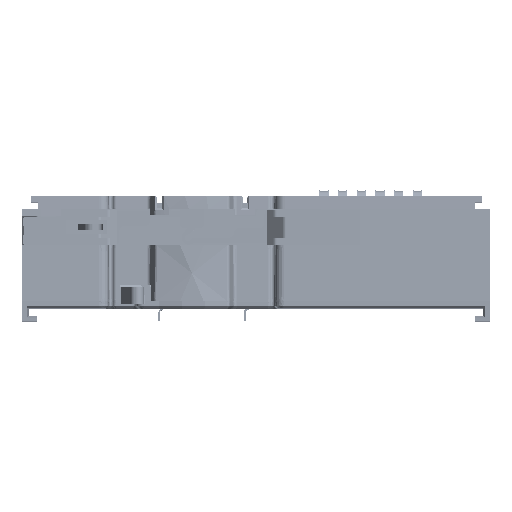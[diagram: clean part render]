
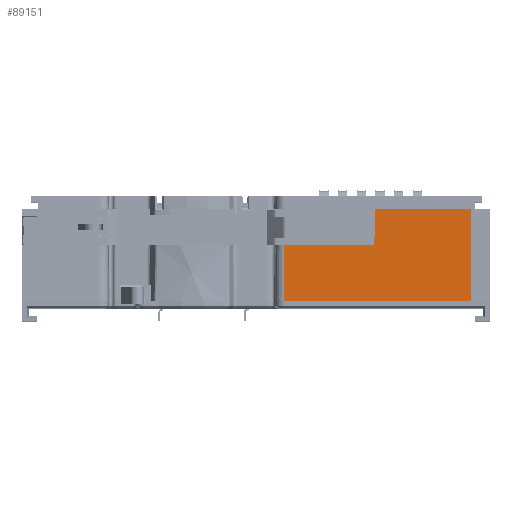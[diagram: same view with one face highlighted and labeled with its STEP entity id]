
A CAD part, top view. The second image highlights one B-rep face of the part: STEP entity #89151.
In plain terms, the highlighted planar face has unit normal (0, 0.009, 1).
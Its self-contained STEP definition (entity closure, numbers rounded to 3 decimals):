
#67140=DIRECTION('',(1.,0.,0.));
#67141=VECTOR('',#67140,20.533);
#67142=CARTESIAN_POINT('',(25.367,9.2,49.128));
#67143=LINE('',#67142,#67141);
#67189=DIRECTION('',(1.,0.,0.));
#67190=VECTOR('',#67189,19.23);
#67191=CARTESIAN_POINT('',(6.07,1.5,49.195));
#67192=LINE('',#67191,#67190);
#73579=DIRECTION('',(-1.,0.,0.));
#73580=VECTOR('',#73579,39.83);
#73581=CARTESIAN_POINT('',(45.9,-10.5,49.3));
#73582=LINE('',#73581,#73580);
#73813=DIRECTION('',(0.,-1.,0.009));
#73814=VECTOR('',#73813,12.);
#73815=CARTESIAN_POINT('',(6.07,1.5,49.195));
#73816=LINE('',#73815,#73814);
#73820=DIRECTION('',(0.,1.,-0.009));
#73821=VECTOR('',#73820,19.701);
#73822=CARTESIAN_POINT('',(45.9,-10.5,49.3));
#73823=LINE('',#73822,#73821);
#73834=DIRECTION('',(-0.009,-1.,0.009));
#73835=VECTOR('',#73834,7.701);
#73836=CARTESIAN_POINT('',(25.367,9.2,49.128));
#73837=LINE('',#73836,#73835);
#80608=CARTESIAN_POINT('',(45.9,-10.5,49.3));
#80609=CARTESIAN_POINT('',(45.9,9.2,49.128));
#80610=VERTEX_POINT('',#80608);
#80611=VERTEX_POINT('',#80609);
#80618=CARTESIAN_POINT('',(6.07,-10.5,49.3));
#80620=VERTEX_POINT('',#80618);
#80660=CARTESIAN_POINT('',(6.07,1.5,49.195));
#80661=VERTEX_POINT('',#80660);
#80800=CARTESIAN_POINT('',(25.367,9.2,49.128));
#80801=VERTEX_POINT('',#80800);
#80802=CARTESIAN_POINT('',(25.3,1.5,49.195));
#80803=VERTEX_POINT('',#80802);
#89136=CARTESIAN_POINT('',(2.396,-10.5,49.3));
#89137=DIRECTION('',(0.,0.009,1.));
#89138=DIRECTION('',(-1.,0.,0.));
#89139=AXIS2_PLACEMENT_3D('',#89136,#89137,#89138);
#89140=PLANE('',#89139);
#89141=ORIENTED_EDGE('',*,*,#89131,.F.);
#89142=ORIENTED_EDGE('',*,*,#83476,.T.);
#89144=ORIENTED_EDGE('',*,*,#89143,.F.);
#89145=ORIENTED_EDGE('',*,*,#83435,.T.);
#89147=ORIENTED_EDGE('',*,*,#89146,.F.);
#89148=ORIENTED_EDGE('',*,*,#89010,.T.);
#89149=EDGE_LOOP('',(#89141,#89142,#89144,#89145,#89147,#89148));
#89150=FACE_OUTER_BOUND('',#89149,.F.);
#89151=ADVANCED_FACE('',(#89150),#89140,.T.);
#83435=EDGE_CURVE('',#80801,#80611,#67143,.T.);
#83476=EDGE_CURVE('',#80661,#80803,#67192,.T.);
#89010=EDGE_CURVE('',#80610,#80620,#73582,.T.);
#89131=EDGE_CURVE('',#80661,#80620,#73816,.T.);
#89143=EDGE_CURVE('',#80801,#80803,#73837,.T.);
#89146=EDGE_CURVE('',#80610,#80611,#73823,.T.);
